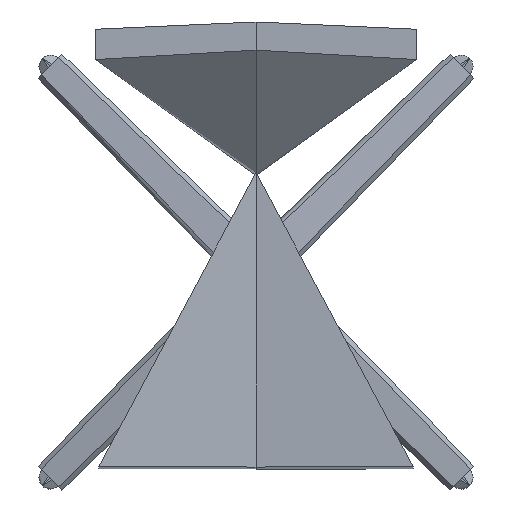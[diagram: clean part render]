
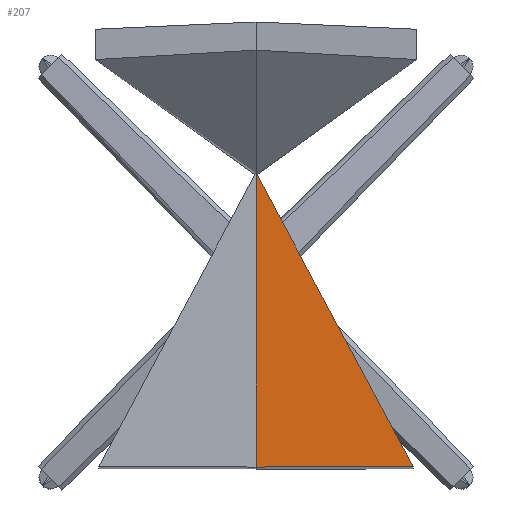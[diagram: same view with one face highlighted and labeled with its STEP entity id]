
A CAD part, top view. The second image highlights one B-rep face of the part: STEP entity #207.
In plain terms, the highlighted free-form (B-spline) face has degree [3, 3] with [4, 9] control points.
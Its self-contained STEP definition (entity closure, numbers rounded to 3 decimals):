
#54=B_SPLINE_SURFACE_WITH_KNOTS('',3,3,((#6280,#6281,#6282,#6283,#6284,
#6285,#6286,#6287,#6288),(#6289,#6290,#6291,#6292,#6293,#6294,#6295,#6296,
#6297),(#6298,#6299,#6300,#6301,#6302,#6303,#6304,#6305,#6306),(#6307,#6308,
#6309,#6310,#6311,#6312,#6313,#6314,#6315)),.UNSPECIFIED.,.F.,.F.,.F.,(4,
4),(4,1,1,1,1,1,4),(0.,313.738),(-441.798,-368.165,
-294.532,-220.899,-147.266,-73.633,
0.),.UNSPECIFIED.);
#76=B_SPLINE_CURVE_WITH_KNOTS('',3,(#9026,#9027,#9028,#9029,#9030,#9031,
#9032,#9033,#9034),.UNSPECIFIED.,.F.,.F.,(4,1,1,1,1,1,4),(0.,73.633,
147.266,220.899,294.532,368.165,441.798),
 .UNSPECIFIED.);
#79=B_SPLINE_CURVE_WITH_KNOTS('',3,(#9051,#9052,#9053,#9054,#9055,#9056,
#9057,#9058,#9059,#9060,#9061,#9062,#9063,#9064,#9065,#9066,#9067,#9068,
#9069,#9070,#9071,#9072,#9073,#9074,#9075),.UNSPECIFIED.,.F.,.F.,(4,1,1,
1,1,1,1,1,1,1,1,1,1,1,2,1,1,1,1,1,1,4),(0.,4.583,9.166,
13.749,18.332,22.915,27.498,36.664,
54.995,73.327,91.659,100.825,109.991,
119.157,120.717,128.322,146.654,164.986,
183.318,201.649,219.981,238.313),
 .UNSPECIFIED.);
#83=B_SPLINE_CURVE_WITH_KNOTS('',3,(#9182,#9183,#9184,#9185),
 .UNSPECIFIED.,.F.,.F.,(4,4),(-146.56,0.),.UNSPECIFIED.);
#84=B_SPLINE_CURVE_WITH_KNOTS('',3,(#9186,#9187,#9188,#9189,#9190),
 .UNSPECIFIED.,.F.,.F.,(4,1,4),(298.037,368.165,441.798),
 .UNSPECIFIED.);
#85=B_SPLINE_CURVE_WITH_KNOTS('',3,(#9191,#9192,#9193,#9194,#9195,#9196,
#9197),.UNSPECIFIED.,.F.,.F.,(4,3,4),(0.,146.56,313.738),
 .UNSPECIFIED.);
#86=B_SPLINE_CURVE_WITH_KNOTS('',3,(#9198,#9199,#9200,#9201,#9202,#9203,
#9204,#9205),.UNSPECIFIED.,.F.,.F.,(4,1,1,1,1,4),(67.257,73.633,
147.266,220.899,294.532,298.037),
 .UNSPECIFIED.);
#207=ADVANCED_FACE('',(#329),#54,.T.);
#329=FACE_OUTER_BOUND('',#451,.T.);
#451=EDGE_LOOP('',(#596,#597,#598,#599,#600,#601));
#596=ORIENTED_EDGE('',*,*,#1135,.T.);
#597=ORIENTED_EDGE('',*,*,#1139,.T.);
#598=ORIENTED_EDGE('',*,*,#1132,.T.);
#599=ORIENTED_EDGE('',*,*,#1141,.T.);
#600=ORIENTED_EDGE('',*,*,#1140,.F.);
#601=ORIENTED_EDGE('',*,*,#1142,.F.);
#1132=EDGE_CURVE('',#1575,#1574,#76,.T.);
#1135=EDGE_CURVE('',#1578,#1576,#79,.T.);
#1139=EDGE_CURVE('',#1576,#1575,#83,.T.);
#1140=EDGE_CURVE('',#1579,#1580,#84,.T.);
#1141=EDGE_CURVE('',#1574,#1580,#85,.T.);
#1142=EDGE_CURVE('',#1578,#1579,#86,.T.);
#1574=VERTEX_POINT('',#8662);
#1575=VERTEX_POINT('',#8663);
#1576=VERTEX_POINT('',#8664);
#1578=VERTEX_POINT('',#8666);
#1579=VERTEX_POINT('',#8667);
#1580=VERTEX_POINT('',#8668);
#6280=CARTESIAN_POINT('',(0.,104.914,437.761));
#6281=CARTESIAN_POINT('',(72.274,104.914,437.761));
#6282=CARTESIAN_POINT('',(139.814,105.391,447.316));
#6283=CARTESIAN_POINT('',(167.339,105.784,455.164));
#6284=CARTESIAN_POINT('',(204.305,105.447,448.434));
#6285=CARTESIAN_POINT('',(243.614,104.723,433.949));
#6286=CARTESIAN_POINT('',(201.158,103.488,409.242));
#6287=CARTESIAN_POINT('',(109.984,102.476,389.004));
#6288=CARTESIAN_POINT('',(0.,102.476,389.004));
#6289=CARTESIAN_POINT('',(0.,0.465,442.983));
#6290=CARTESIAN_POINT('',(72.274,0.465,442.983));
#6291=CARTESIAN_POINT('',(139.814,0.943,452.538));
#6292=CARTESIAN_POINT('',(167.339,1.335,460.386));
#6293=CARTESIAN_POINT('',(204.305,0.999,453.657));
#6294=CARTESIAN_POINT('',(243.614,0.275,439.172));
#6295=CARTESIAN_POINT('',(201.158,-0.961,414.465));
#6296=CARTESIAN_POINT('',(99.643,-2.234,389.004));
#6297=CARTESIAN_POINT('',(0.,-2.234,389.004));
#6298=CARTESIAN_POINT('',(0.,-103.985,448.205));
#6299=CARTESIAN_POINT('',(72.274,-103.985,448.205));
#6300=CARTESIAN_POINT('',(139.814,-103.507,457.761));
#6301=CARTESIAN_POINT('',(167.339,-103.115,465.608));
#6302=CARTESIAN_POINT('',(204.305,-103.451,458.879));
#6303=CARTESIAN_POINT('',(243.614,-104.175,444.394));
#6304=CARTESIAN_POINT('',(201.158,-105.411,419.687));
#6305=CARTESIAN_POINT('',(89.303,-106.945,389.004));
#6306=CARTESIAN_POINT('',(0.,-106.945,389.004));
#6307=CARTESIAN_POINT('',(0.,-208.433,453.428));
#6308=CARTESIAN_POINT('',(72.274,-208.433,453.428));
#6309=CARTESIAN_POINT('',(139.814,-207.955,462.983));
#6310=CARTESIAN_POINT('',(167.339,-207.563,470.831));
#6311=CARTESIAN_POINT('',(204.305,-207.899,464.102));
#6312=CARTESIAN_POINT('',(243.614,-208.623,449.617));
#6313=CARTESIAN_POINT('',(201.158,-209.859,424.91));
#6314=CARTESIAN_POINT('',(78.963,-211.654,389.004));
#6315=CARTESIAN_POINT('',(0.,-211.654,389.004));
#8662=CARTESIAN_POINT('',(0.,104.914,437.761));
#8663=CARTESIAN_POINT('',(0.,102.476,389.004));
#8664=CARTESIAN_POINT('',(0.,-44.267,389.004));
#8666=CARTESIAN_POINT('',(167.387,-210.276,416.555));
#8667=CARTESIAN_POINT('',(167.387,-207.686,468.358));
#8668=CARTESIAN_POINT('',(0.,-208.433,453.428));
#9026=CARTESIAN_POINT('',(0.,102.476,389.004));
#9027=CARTESIAN_POINT('',(109.984,102.476,389.004));
#9028=CARTESIAN_POINT('',(201.158,103.488,409.242));
#9029=CARTESIAN_POINT('',(243.614,104.723,433.949));
#9030=CARTESIAN_POINT('',(204.305,105.447,448.434));
#9031=CARTESIAN_POINT('',(167.339,105.784,455.164));
#9032=CARTESIAN_POINT('',(139.814,105.391,447.316));
#9033=CARTESIAN_POINT('',(72.274,104.914,437.761));
#9034=CARTESIAN_POINT('',(0.,104.914,437.761));
#9051=CARTESIAN_POINT('',(167.387,-210.276,416.555));
#9052=CARTESIAN_POINT('',(166.318,-209.227,416.154));
#9053=CARTESIAN_POINT('',(164.186,-207.135,415.363));
#9054=CARTESIAN_POINT('',(161.002,-204.009,414.204));
#9055=CARTESIAN_POINT('',(157.833,-200.896,413.074));
#9056=CARTESIAN_POINT('',(154.675,-197.794,411.973));
#9057=CARTESIAN_POINT('',(151.529,-194.701,410.901));
#9058=CARTESIAN_POINT('',(147.346,-190.588,409.508));
#9059=CARTESIAN_POINT('',(140.052,-183.411,407.169));
#9060=CARTESIAN_POINT('',(129.681,-173.193,404.104));
#9061=CARTESIAN_POINT('',(117.217,-160.891,400.858));
#9062=CARTESIAN_POINT('',(106.735,-150.528,398.501));
#9063=CARTESIAN_POINT('',(98.246,-142.122,396.819));
#9064=CARTESIAN_POINT('',(91.814,-135.748,395.657));
#9065=CARTESIAN_POINT('',(87.106,-131.079,394.889));
#9066=CARTESIAN_POINT('',(84.548,-128.54,394.496));
#9067=CARTESIAN_POINT('',(82.359,-126.368,394.164));
#9068=CARTESIAN_POINT('',(76.166,-120.22,393.267));
#9069=CARTESIAN_POINT('',(65.604,-109.722,391.983));
#9070=CARTESIAN_POINT('',(52.491,-96.669,390.778));
#9071=CARTESIAN_POINT('',(39.38,-83.601,389.918));
#9072=CARTESIAN_POINT('',(26.265,-70.514,389.36));
#9073=CARTESIAN_POINT('',(13.142,-57.406,389.061));
#9074=CARTESIAN_POINT('',(4.383,-48.65,389.004));
#9075=CARTESIAN_POINT('',(0.,-44.267,389.004));
#9182=CARTESIAN_POINT('',(0.,-44.267,389.004));
#9183=CARTESIAN_POINT('',(0.,4.647,389.004));
#9184=CARTESIAN_POINT('',(0.,53.562,389.004));
#9185=CARTESIAN_POINT('',(0.,102.476,389.004));
#9186=CARTESIAN_POINT('',(167.387,-207.686,468.358));
#9187=CARTESIAN_POINT('',(157.263,-207.706,467.963));
#9188=CARTESIAN_POINT('',(138.206,-207.966,462.756));
#9189=CARTESIAN_POINT('',(72.274,-208.433,453.428));
#9190=CARTESIAN_POINT('',(0.,-208.433,453.428));
#9191=CARTESIAN_POINT('',(0.,104.914,437.761));
#9192=CARTESIAN_POINT('',(0.,56.122,440.2));
#9193=CARTESIAN_POINT('',(0.,7.329,442.64));
#9194=CARTESIAN_POINT('',(0.,-41.463,445.079));
#9195=CARTESIAN_POINT('',(0.,-97.12,447.862));
#9196=CARTESIAN_POINT('',(0.,-152.777,450.645));
#9197=CARTESIAN_POINT('',(0.,-208.433,453.428));
#9198=CARTESIAN_POINT('',(167.387,-210.276,416.555));
#9199=CARTESIAN_POINT('',(170.993,-210.217,417.747));
#9200=CARTESIAN_POINT('',(214.085,-209.482,432.432));
#9201=CARTESIAN_POINT('',(243.614,-208.623,449.617));
#9202=CARTESIAN_POINT('',(204.305,-207.899,464.102));
#9203=CARTESIAN_POINT('',(179.075,-207.669,468.695));
#9204=CARTESIAN_POINT('',(167.893,-207.685,468.378));
#9205=CARTESIAN_POINT('',(167.387,-207.686,468.358));
